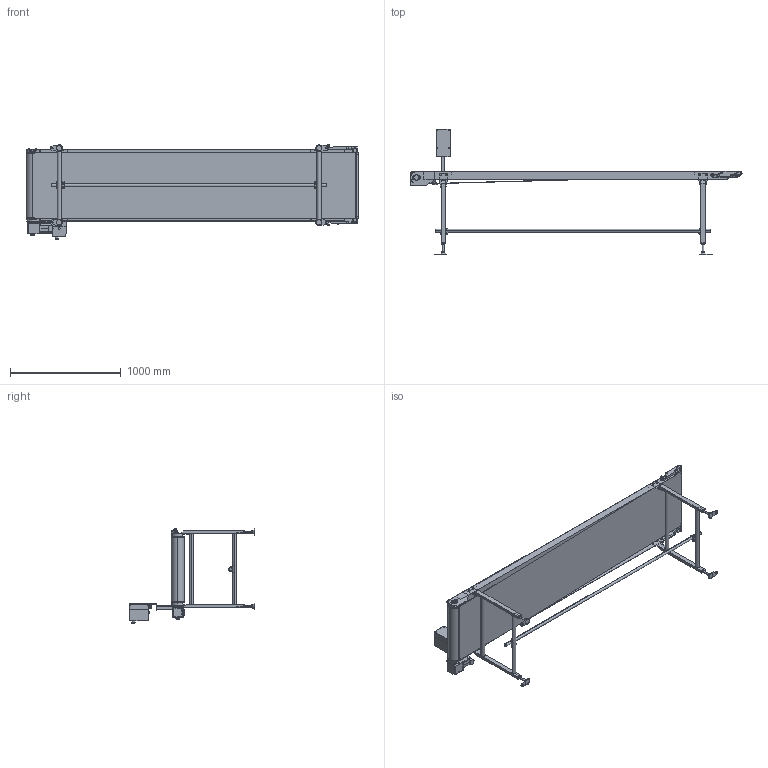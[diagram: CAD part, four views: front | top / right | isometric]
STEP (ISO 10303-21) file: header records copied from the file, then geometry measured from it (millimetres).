
FILE_DESCRIPTION (( 'STEP AP214' ), '1' );
FILE_NAME ('FB23-HS-600-3000-R.STEP', '2023-04-20T02:33:58', ( '' ), ( '' ), 'SwSTEP 2.0', 'SolidWorks 2017', '' );
FILE_SCHEMA (( 'AUTOMOTIVE_DESIGN' ));
Length unit declared in the file: millimetre
Products named in the file (1): FB23-HS-600-3000-R
Bounding box: 3003.3 x 1131 x 856.5 mm (x, y, z)
Volume: 31406768.1 mm3; surface area: 14143042 mm2
Topology: 52 solids, 53 shells, 1985 faces, 4851 edges, 3096 vertices
Faces by surface type: plane 1103, cylinder 629, cone 157, torus 64, bspline 18, sphere 14
Entity records: 61168 total; most frequent: CARTESIAN_POINT 12772, DIRECTION 10332, ORIENTED_EDGE 9626, EDGE_CURVE 4813, AXIS2_PLACEMENT_3D 3765, VERTEX_POINT 3094, VECTOR 2802, LINE 2802
